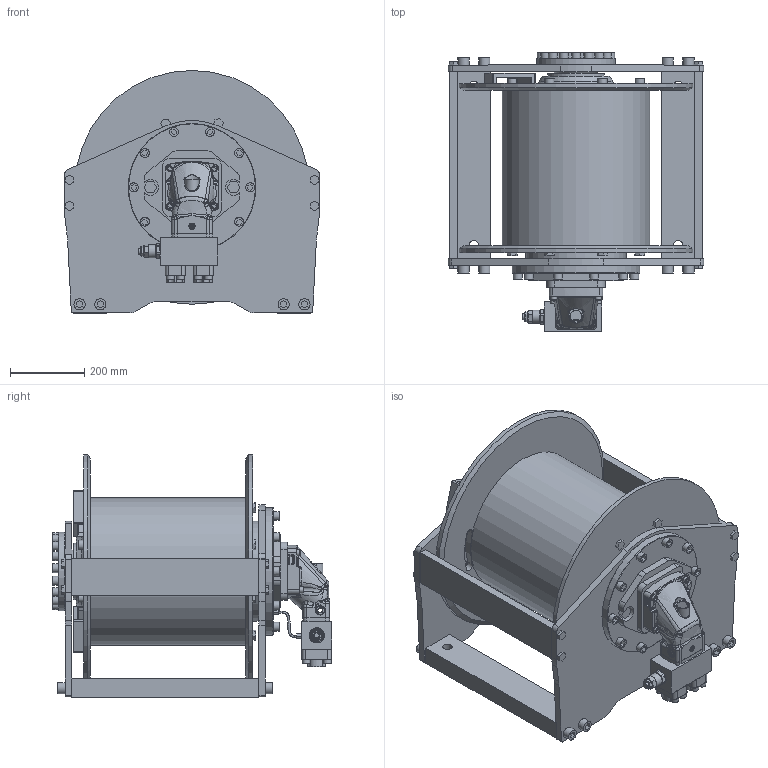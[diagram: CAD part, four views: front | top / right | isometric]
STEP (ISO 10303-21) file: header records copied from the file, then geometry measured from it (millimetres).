
FILE_DESCRIPTION( ( 'Unknown' ), '1' );
FILE_NAME( 'C:/Users/s.caputo/Desktop/Nuova cartella/ASSIEME_S81_STANDARD_mi2858.stp', 'Unknown', ( 'Unknown' ), ( 'Unknown' ), 'PSStep 17.0.49', 'Unknown', ' ' );
FILE_SCHEMA( ( 'AUTOMOTIVE_DESIGN { 1 0 10303 214 1 1 1 1 }' ) );
Length unit declared in the file: millimetre
Products named in the file (19): 3792627D; 37926287D_SW0002_0; V-tcei M 10 x 40; GRUPPO_MOTORE; Centrallina_mir1; TAPPO_MOTORE; Tappo di regolazione_mir1; Assem1; TAMBURO; Raccordo_tubo_Ø6_dritto; SUPPORTO_MOTORE; SUPPORTO_OPP_MOTORE; FLANGIA_POST; APPOGGIO; TIRANTE; PASSAGGIO_FUNE_LARGO_L90; TUBO; FLANGIA_MOTORE
Assembly tree (26 placements, depth 4):
  Assem1
    TAMBURO
    Raccordo_tubo_Ø6_dritto  x2
    SUPPORTO_MOTORE
    SUPPORTO_OPP_MOTORE
    FLANGIA_POST
    APPOGGIO  x2
    TIRANTE  x2
    PASSAGGIO_FUNE_LARGO_L90  x2
    TUBO
    FLANGIA_MOTORE
    GRUPPO_MOTORE
      Centrallina_mir1
      TAPPO_MOTORE  x2
      Tappo di regolazione_mir1
      3792627D
        37926287D_SW0002_0
        37926287D_SW0002_0
        V-tcei M 10 x 40  x4
Bounding box: 688 x 752 x 655 mm (x, y, z)
Volume: 88711090.4 mm3; surface area: 4356528.9 mm2
Topology: 22 solids, 370 shells, 2085 faces, 5770 edges, 4224 vertices
Faces by surface type: plane 960, cylinder 495, bspline 482, torus 79, sphere 30, cone 29, revolution 6, extrusion 4
Full cylindrical faces by diameter (mm): 6 x16, 7 x8, 8.78 x8, 10 x17, 16 x5, 17 x2, 19.05 x2, 21 x8, 24 x27, 25 x14, 30 x8, 35 x1, 41 x1, 50 x1, 114.401 x1, 121.114 x1, 129 x1, 150 x1, 152.002 x1, 269.995 x1, 343.993 x1, 398 x1, 630 x2
Entity records: 113791 total; most frequent: CARTESIAN_POINT 56589, ORIENTED_EDGE 8778, DIRECTION 6276, EDGE_CURVE 5196, VERTEX_POINT 3928, B_SPLINE_CURVE_WITH_KNOTS 2341, EDGE_LOOP 2308, AXIS2_PLACEMENT_3D 2144
